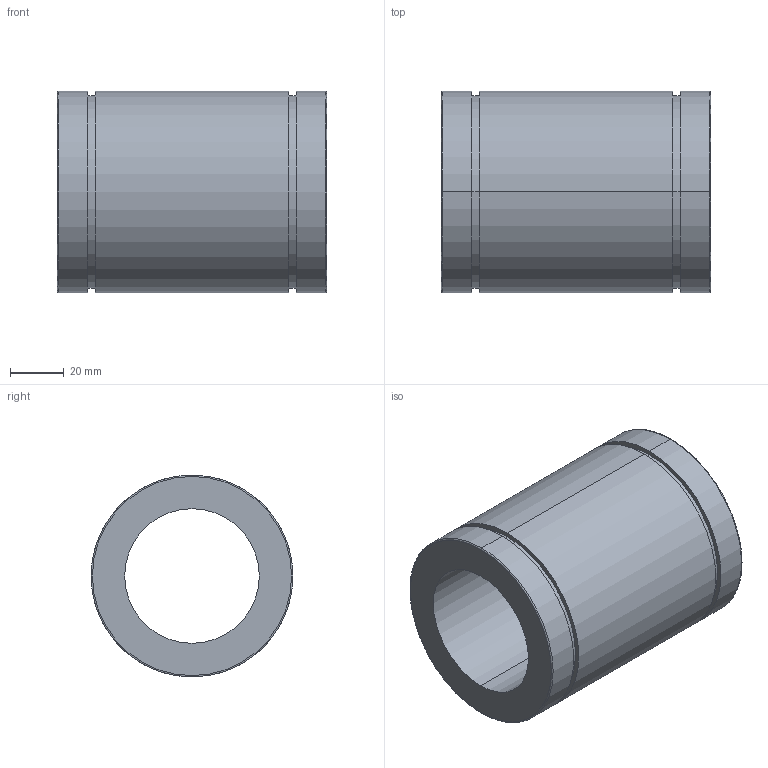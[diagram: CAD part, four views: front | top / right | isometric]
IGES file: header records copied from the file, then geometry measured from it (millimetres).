
Start section: 3D InterOp IGES (Version 21 0 1), Spatial Corp. Copyright (c) 1999-2007.
Global section: file name: SB-50.igs; native system: Spatial Corp.; preprocessor: 3D InterOp GENERIC/IGES 3.0; author: Noname; organization: Noname; date: 20220217.090341; units: millimetre
Bounding box: 100 x 75 x 75 mm (x, y, z)
Surface area: 45629.9 mm2 (no closed solid volume)
Topology: 0 solids, 0 shells, 22 faces, 88 edges, 88 vertices
Faces by surface type: revolution 16, extrusion 6
